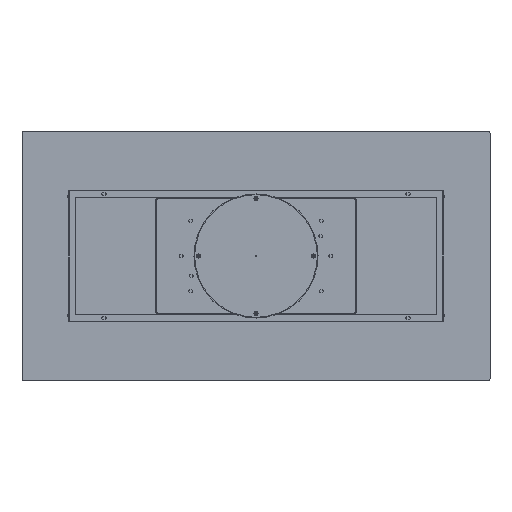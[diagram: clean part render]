
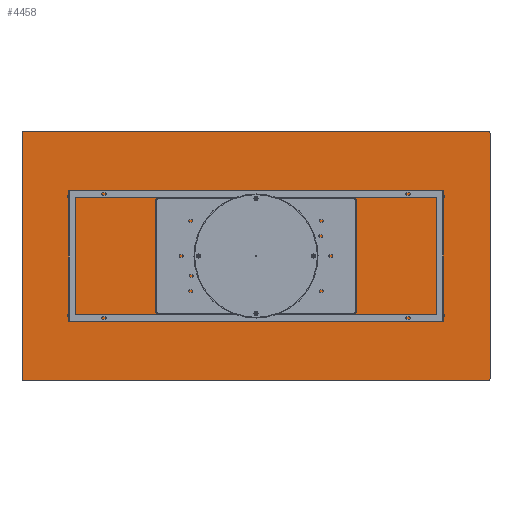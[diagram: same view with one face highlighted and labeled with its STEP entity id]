
A CAD part, front view. The second image highlights one B-rep face of the part: STEP entity #4458.
In plain terms, the highlighted planar face has unit normal (0, -1, 0).
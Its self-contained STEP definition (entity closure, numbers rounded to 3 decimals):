
#98 = CARTESIAN_POINT ( 'NONE',  ( 995., 0., 525. ) ) ;
#119 = VECTOR ( 'NONE', #12737, 1000. ) ;
#333 = DIRECTION ( 'NONE',  ( 0., 0., 1. ) ) ;
#351 = CARTESIAN_POINT ( 'NONE',  ( 0., 0., 0. ) ) ;
#363 = ORIENTED_EDGE ( 'NONE', *, *, #5850, .T. ) ;
#536 = CARTESIAN_POINT ( 'NONE',  ( -995., 0., -525. ) ) ;
#608 = DIRECTION ( 'NONE',  ( 0., 0., 1. ) ) ;
#666 = DIRECTION ( 'NONE',  ( 0., -1., 0. ) ) ;
#1181 = DIRECTION ( 'NONE',  ( 0., 0., 1. ) ) ;
#1257 = DIRECTION ( 'NONE',  ( 0., 1., 0. ) ) ;
#1454 = DIRECTION ( 'NONE',  ( 0., -1., 0. ) ) ;
#1546 = CIRCLE ( 'NONE', #5501, 5. ) ;
#2093 = VECTOR ( 'NONE', #333, 1000. ) ;
#3053 = AXIS2_PLACEMENT_3D ( 'NONE', #11056, #11954, #3636 ) ;
#3496 = EDGE_LOOP ( 'NONE', ( #6594, #363, #11463, #13407, #4384, #9609, #10942, #7991 ) ) ;
#3636 = DIRECTION ( 'NONE',  ( 0., 0., 1. ) ) ;
#3881 = CARTESIAN_POINT ( 'NONE',  ( -995., 0., -530. ) ) ;
#4384 = ORIENTED_EDGE ( 'NONE', *, *, #12608, .F. ) ;
#4458 = ADVANCED_FACE ( 'NONE', ( #9204 ), #12742, .F. ) ;
#4640 = DIRECTION ( 'NONE',  ( 0., 0., -1. ) ) ;
#4904 = LINE ( 'NONE', #7890, #10734 ) ;
#4966 = CIRCLE ( 'NONE', #9384, 5. ) ;
#5103 = EDGE_CURVE ( 'NONE', #6353, #8375, #11904, .T. ) ;
#5501 = AXIS2_PLACEMENT_3D ( 'NONE', #98, #9631, #11517 ) ;
#5524 = CARTESIAN_POINT ( 'NONE',  ( -1000., 0., -530. ) ) ;
#5652 = CARTESIAN_POINT ( 'NONE',  ( -1000., 0., -530. ) ) ;
#5697 = LINE ( 'NONE', #12137, #11372 ) ;
#5723 = LINE ( 'NONE', #5652, #2093 ) ;
#5850 = EDGE_CURVE ( 'NONE', #9854, #9809, #1546, .T. ) ;
#5887 = AXIS2_PLACEMENT_3D ( 'NONE', #351, #1257, #9614 ) ;
#6169 = VERTEX_POINT ( 'NONE', #12322 ) ;
#6340 = VERTEX_POINT ( 'NONE', #11644 ) ;
#6353 = VERTEX_POINT ( 'NONE', #10789 ) ;
#6594 = ORIENTED_EDGE ( 'NONE', *, *, #8337, .F. ) ;
#6799 = DIRECTION ( 'NONE',  ( 1., 0., 0. ) ) ;
#7890 = CARTESIAN_POINT ( 'NONE',  ( 1000., 0., -530. ) ) ;
#7991 = ORIENTED_EDGE ( 'NONE', *, *, #10008, .T. ) ;
#8088 = CARTESIAN_POINT ( 'NONE',  ( -1000., 0., 525. ) ) ;
#8337 = EDGE_CURVE ( 'NONE', #9854, #10989, #4904, .T. ) ;
#8375 = VERTEX_POINT ( 'NONE', #8088 ) ;
#8786 = LINE ( 'NONE', #5524, #119 ) ;
#9147 = CIRCLE ( 'NONE', #9805, 5. ) ;
#9204 = FACE_OUTER_BOUND ( 'NONE', #3496, .T. ) ;
#9299 = VERTEX_POINT ( 'NONE', #3881 ) ;
#9384 = AXIS2_PLACEMENT_3D ( 'NONE', #11900, #1454, #1181 ) ;
#9484 = CARTESIAN_POINT ( 'NONE',  ( 995., 0., 530. ) ) ;
#9609 = ORIENTED_EDGE ( 'NONE', *, *, #11913, .T. ) ;
#9614 = DIRECTION ( 'NONE',  ( 0., 0., 1. ) ) ;
#9631 = DIRECTION ( 'NONE',  ( 0., -1., 0. ) ) ;
#9805 = AXIS2_PLACEMENT_3D ( 'NONE', #536, #666, #608 ) ;
#9809 = VERTEX_POINT ( 'NONE', #9484 ) ;
#9854 = VERTEX_POINT ( 'NONE', #11563 ) ;
#9891 = EDGE_CURVE ( 'NONE', #6169, #9299, #8786, .T. ) ;
#10008 = EDGE_CURVE ( 'NONE', #6169, #10989, #4966, .T. ) ;
#10734 = VECTOR ( 'NONE', #4640, 1000. ) ;
#10789 = CARTESIAN_POINT ( 'NONE',  ( -995., 0., 530. ) ) ;
#10942 = ORIENTED_EDGE ( 'NONE', *, *, #9891, .F. ) ;
#10989 = VERTEX_POINT ( 'NONE', #11093 ) ;
#11056 = CARTESIAN_POINT ( 'NONE',  ( -995., 0., 525. ) ) ;
#11093 = CARTESIAN_POINT ( 'NONE',  ( 1000., 0., -525. ) ) ;
#11372 = VECTOR ( 'NONE', #6799, 1000. ) ;
#11463 = ORIENTED_EDGE ( 'NONE', *, *, #12344, .F. ) ;
#11517 = DIRECTION ( 'NONE',  ( 0., 0., 1. ) ) ;
#11563 = CARTESIAN_POINT ( 'NONE',  ( 1000., 0., 525. ) ) ;
#11644 = CARTESIAN_POINT ( 'NONE',  ( -1000., 0., -525. ) ) ;
#11900 = CARTESIAN_POINT ( 'NONE',  ( 995., 0., -525. ) ) ;
#11904 = CIRCLE ( 'NONE', #3053, 5. ) ;
#11913 = EDGE_CURVE ( 'NONE', #6340, #9299, #9147, .T. ) ;
#11954 = DIRECTION ( 'NONE',  ( 0., -1., 0. ) ) ;
#12137 = CARTESIAN_POINT ( 'NONE',  ( -1000., 0., 530. ) ) ;
#12322 = CARTESIAN_POINT ( 'NONE',  ( 995., 0., -530. ) ) ;
#12344 = EDGE_CURVE ( 'NONE', #6353, #9809, #5697, .T. ) ;
#12608 = EDGE_CURVE ( 'NONE', #6340, #8375, #5723, .T. ) ;
#12737 = DIRECTION ( 'NONE',  ( -1., 0., 0. ) ) ;
#12742 = PLANE ( 'NONE',  #5887 ) ;
#13407 = ORIENTED_EDGE ( 'NONE', *, *, #5103, .T. ) ;
